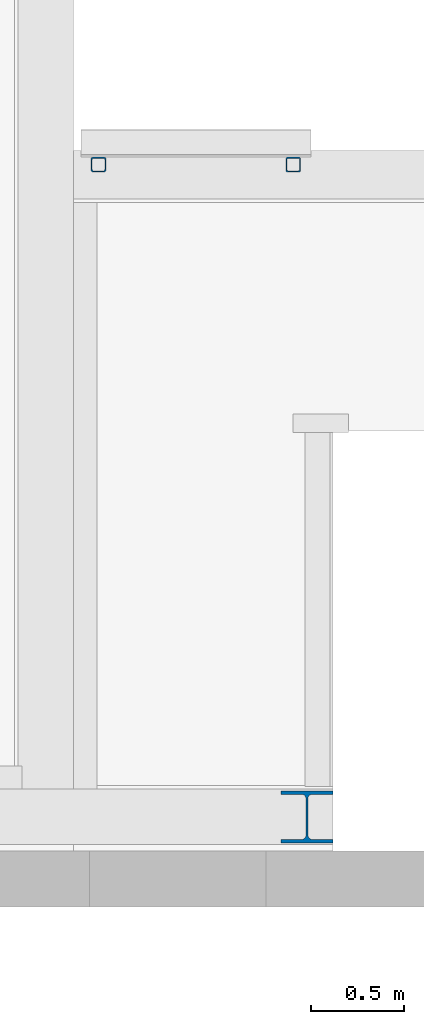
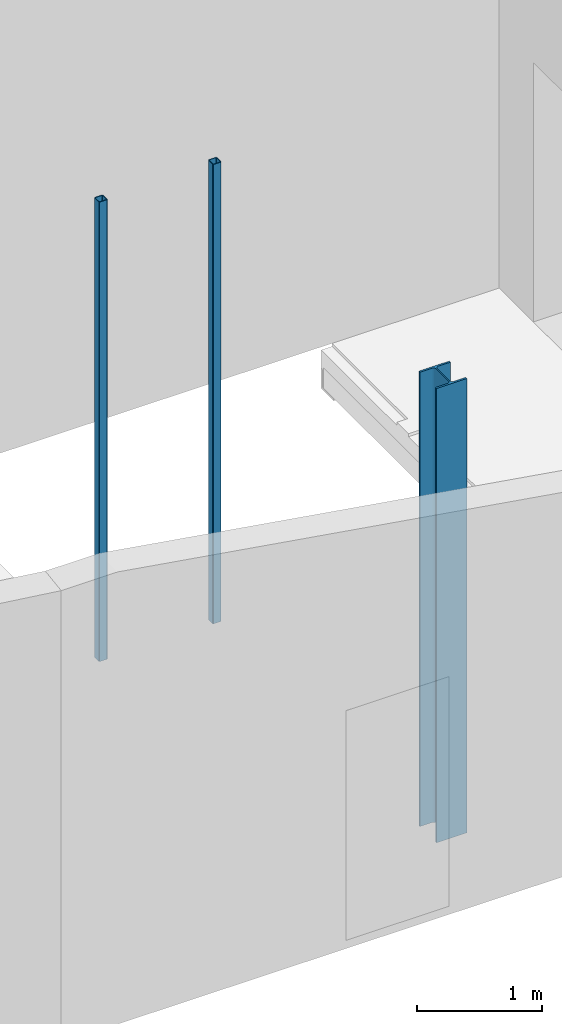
# One storey, part 6 of 38: 3 columns.
"""IFC2X3 building model written with IfcOpenShell, lengths in millimetres."""

from ifc_helpers import new_model, entity, si_unit, converted_unit, derived_unit, direction, frame, frame_2d, origin, place, context, subcontext, project, spatial, polyline, circle_curve, parameter, trimmed, segment, composite_curve, outline, extrude, source, transform, mapped, material, type_object, type_shapes, element, save


model = new_model("IFC2X3")

# Units and contexts
model_context = context("Model", 3, precision=0.01, world=origin(), true_north=direction((6.12303176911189e-17, 1.0)))
body_context = subcontext(model_context, "Body", "Model", "MODEL_VIEW")
ifc_project = project(units=[si_unit("LENGTHUNIT", "METRE", prefix="MILLI"), si_unit("AREAUNIT", "SQUARE_METRE", prefix="MILLI"), si_unit("VOLUMEUNIT", "CUBIC_METRE"), converted_unit("PLANEANGLEUNIT", "DEGREE", entity("IfcRatioMeasure", 0.0174532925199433), si_unit("PLANEANGLEUNIT", "RADIAN"), dimensions=[0, 0, 0, 0, 0, 0, 0]), si_unit("MASSUNIT", "GRAM", prefix="KILO"), derived_unit("MASSDENSITYUNIT", [(si_unit("MASSUNIT", "GRAM", prefix="KILO"), 1), (si_unit("LENGTHUNIT", "METRE"), -3)]), derived_unit("MOMENTOFINERTIAUNIT", [(si_unit("LENGTHUNIT", "METRE"), 4)]), si_unit("TIMEUNIT", "SECOND"), si_unit("FREQUENCYUNIT", "HERTZ"), si_unit("THERMODYNAMICTEMPERATUREUNIT", "DEGREE_CELSIUS"), derived_unit("THERMALTRANSMITTANCEUNIT", [(si_unit("MASSUNIT", "GRAM", prefix="KILO"), 1), (si_unit("THERMODYNAMICTEMPERATUREUNIT", "KELVIN"), -1), (si_unit("TIMEUNIT", "SECOND"), -3)]), derived_unit("VOLUMETRICFLOWRATEUNIT", [(si_unit("LENGTHUNIT", "METRE"), 3), (si_unit("TIMEUNIT", "SECOND"), -1)]), si_unit("ELECTRICCURRENTUNIT", "AMPERE"), si_unit("ELECTRICVOLTAGEUNIT", "VOLT"), si_unit("POWERUNIT", "WATT"), si_unit("FORCEUNIT", "NEWTON", prefix="KILO"), si_unit("ILLUMINANCEUNIT", "LUX"), si_unit("LUMINOUSFLUXUNIT", "LUMEN"), si_unit("LUMINOUSINTENSITYUNIT", "CANDELA"), derived_unit("USERDEFINED", [(si_unit("MASSUNIT", "GRAM", prefix="KILO"), -1), (si_unit("LENGTHUNIT", "METRE"), -2), (si_unit("TIMEUNIT", "SECOND"), 3), (si_unit("LUMINOUSFLUXUNIT", "LUMEN"), 1)]), derived_unit("LINEARVELOCITYUNIT", [(si_unit("LENGTHUNIT", "METRE"), 1), (si_unit("TIMEUNIT", "SECOND"), -1)]), si_unit("PRESSUREUNIT", "PASCAL"), derived_unit("USERDEFINED", [(si_unit("LENGTHUNIT", "METRE"), -2), (si_unit("MASSUNIT", "GRAM", prefix="KILO"), 1), (si_unit("TIMEUNIT", "SECOND"), -2)]), derived_unit("LINEARFORCEUNIT", [(si_unit("MASSUNIT", "GRAM", prefix="KILO"), 1), (si_unit("LENGTHUNIT", "METRE"), 1), (si_unit("TIMEUNIT", "SECOND"), -2), (si_unit("LENGTHUNIT", "METRE"), -1)]), derived_unit("PLANARFORCEUNIT", [(si_unit("MASSUNIT", "GRAM", prefix="KILO"), 1), (si_unit("LENGTHUNIT", "METRE"), 1), (si_unit("TIMEUNIT", "SECOND"), -2), (si_unit("LENGTHUNIT", "METRE"), -2)])], contexts=[model_context])

# Site, building, storey
site_placement = place(None, origin())
site = spatial("IfcSite", under=ifc_project, at=site_placement, Name="Theater aan de Parade", CompositionType="ELEMENT")
building_placement = place(site_placement, origin())
building = spatial("IfcBuilding", under=site, at=building_placement, Name="Theater aan de Parade", CompositionType="ELEMENT")
storey_placement = place(building_placement, frame((0.0, 0.0, 12480.0)))
storey = spatial("IfcBuildingStorey", under=building, at=storey_placement, Name="03 derde verdieping", CompositionType="ELEMENT", Elevation=12480.0)

# Columns
ifc_material = material(Name="00_PBT_MAT_staal_S355")
column_type_1 = type_object("IfcColumnType", Name="28_PBT_SC_staal_H-profiel:S355_HE280B", PredefinedType="COLUMN", material=ifc_material)
shared_shape_1 = source(origin(), body_context, "Body", "SweptSolid", [
    extrude(outline(composite_curve([segment(polyline([(122.0, -140.0), (140.0, -140.0)]), True, "CONTINUOUS"), segment(polyline([(140.0, -140.0), (140.0, 140.0)]), True, "CONTINUOUS"), segment(polyline([(140.0, 140.0), (122.0, 140.0)]), True, "CONTINUOUS"), segment(polyline([(122.0, 140.0), (122.0, 29.2500000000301)]), True, "CONTINUOUS"), segment(trimmed(circle_curve(frame_2d((98.0, 29.2500000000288), x_axis=(1.0, 0.0)), 24.0000000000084), [parameter(270.000000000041)], [parameter(0.0)], True, "PARAMETER"), False, "CONTINUOUS"), segment(polyline([(98.0, 5.25000000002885), (-98.0, 5.24999999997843)]), True, "CONTINUOUS"), segment(trimmed(circle_curve(frame_2d((-98.0, 29.2499999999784), x_axis=(0.0, -1.0)), 24.0000000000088), [parameter(270.000000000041)], [parameter(0.0)], True, "PARAMETER"), False, "CONTINUOUS"), segment(polyline([(-122.0, 29.2499999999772), (-122.0, 140.0)]), True, "CONTINUOUS"), segment(polyline([(-122.0, 140.0), (-140.0, 140.0)]), True, "CONTINUOUS"), segment(polyline([(-140.0, 140.0), (-140.0, -140.0)]), True, "CONTINUOUS"), segment(polyline([(-140.0, -140.0), (-122.0, -140.0)]), True, "CONTINUOUS"), segment(polyline([(-122.0, -140.0), (-122.0, -29.2500000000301)]), True, "CONTINUOUS"), segment(trimmed(circle_curve(frame_2d((-98.0, -29.2500000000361), x_axis=(-1.0, 0.0)), 24.0000000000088), [parameter(270.000000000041)], [parameter(0.0)], True, "PARAMETER"), False, "CONTINUOUS"), segment(polyline([(-98.0, -5.25000000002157), (98.0, -5.24999999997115)]), True, "CONTINUOUS"), segment(trimmed(circle_curve(frame_2d((98.0, -29.2499999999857), x_axis=(0.0, 1.0)), 24.0000000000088), [parameter(270.000000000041)], [parameter(0.0)], True, "PARAMETER"), False, "CONTINUOUS"), segment(polyline([(122.0, -29.2499999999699), (122.0, -140.0)]), True, "CONTINUOUS")], self_intersect=False)), frame((63241.5848518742, 43035.0, 12540.0), z_axis=(0.0, 0.0, 1.0), x_axis=(0.0, -1.0, 0.0)), (0.0, 0.0, 1.0), 4429.99999999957),
])
type_shapes(column_type_1, [shared_shape_1])
column_placement = place(storey_placement, frame((0.0, 0.0, -12480.0)))
element("IfcColumn", 1, at=column_placement, inside=storey, type_object=column_type_1, material=ifc_material, Name="28_PBT_SC_staal_H-profiel:S355_HE280B", ObjectType="28_PBT_SC_staal_H-profiel:S355_HE280B", context=body_context, shape_type="MappedRepresentation", body=[
    mapped(shared_shape_1, transform((0.0, 0.0, 0.0), scale=1.0)),
])
column_type_2 = type_object("IfcColumnType", Name="28_PBT_SC_staal_koker:S355_K80x80x6.3", PredefinedType="COLUMN", material=ifc_material)
shared_shape_2 = source(origin(), body_context, "Body", "SweptSolid", [
    extrude(outline(composite_curve([segment(trimmed(circle_curve(frame_2d((-30.55, -30.55), x_axis=(1.0, 0.0)), 9.45), [parameter(180.0)], [parameter(270.0)], True, "PARAMETER"), True, "CONTINUOUS"), segment(polyline([(-30.55, -40.0), (30.55, -40.0)]), True, "CONTINUOUS"), segment(trimmed(circle_curve(frame_2d((30.55, -30.55), x_axis=(1.0, 0.0)), 9.45), [parameter(270.0)], [parameter(5.08888749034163e-14)], True, "PARAMETER"), True, "CONTINUOUS"), segment(polyline([(40.0, -30.55), (40.0, 30.55)]), True, "CONTINUOUS"), segment(trimmed(circle_curve(frame_2d((30.55, 30.55), x_axis=(1.0, 0.0)), 9.45), [parameter(3.56222124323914e-13)], [parameter(90.0000000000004)], True, "PARAMETER"), True, "CONTINUOUS"), segment(polyline([(30.55, 40.0), (-30.55, 40.0)]), True, "CONTINUOUS"), segment(trimmed(circle_curve(frame_2d((-30.55, 30.55), x_axis=(1.0, 0.0)), 9.45), [parameter(90.0000000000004)], [parameter(180.0)], True, "PARAMETER"), True, "CONTINUOUS"), segment(polyline([(-40.0, 30.55), (-40.0, -30.55)]), True, "CONTINUOUS")], self_intersect=False), holes=[composite_curve([segment(trimmed(circle_curve(frame_2d((27.4, 27.4), x_axis=(1.0, 0.0)), 6.3), [parameter(0.0)], [parameter(90.0000000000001)], True, "PARAMETER"), False, "CONTINUOUS"), segment(polyline([(33.7, 27.4), (33.7, -27.4)]), True, "CONTINUOUS"), segment(trimmed(circle_curve(frame_2d((27.4, -27.4), x_axis=(1.0, 0.0)), 6.3), [parameter(270.0)], [parameter(360.0)], True, "PARAMETER"), False, "CONTINUOUS"), segment(polyline([(27.4, -33.7), (-27.4, -33.7)]), True, "CONTINUOUS"), segment(trimmed(circle_curve(frame_2d((-27.4, -27.4), x_axis=(1.0, 0.0)), 6.3), [parameter(180.0)], [parameter(270.0)], True, "PARAMETER"), False, "CONTINUOUS"), segment(polyline([(-33.7, -27.4), (-33.7, 27.4)]), True, "CONTINUOUS"), segment(trimmed(circle_curve(frame_2d((-27.4, 27.4), x_axis=(1.0, 0.0)), 6.3), [parameter(89.9999999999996)], [parameter(180.0)], True, "PARAMETER"), False, "CONTINUOUS"), segment(polyline([(-27.4, 33.7), (27.4, 33.7)]), True, "CONTINUOUS")], self_intersect=False)]), frame((0.0, 0.0, 12470.0), z_axis=(0.0, 0.0, 1.0), x_axis=(-1.0, 0.0, 0.0)), (0.0, 0.0, 1.0), 4479.99999999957),
])
type_shapes(column_type_2, [shared_shape_2])
for number, where in (
    (2, (63167.7650192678, 46551.8631171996, -12480.0)),
    (3, (62117.7650192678, 46551.8631171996, -12480.0)),
):
    element("IfcColumn", number, at=place(storey_placement, frame(where)), inside=storey, type_object=column_type_2, material=ifc_material, Name="28_PBT_SC_staal_koker:S355_K80x80x6.3", ObjectType="28_PBT_SC_staal_koker:S355_K80x80x6.3", context=body_context, shape_type="MappedRepresentation", body=[
        mapped(shared_shape_2, transform((0.0, 0.0, 0.0), scale=1.0)),
    ])

save(model, "model.ifc")
